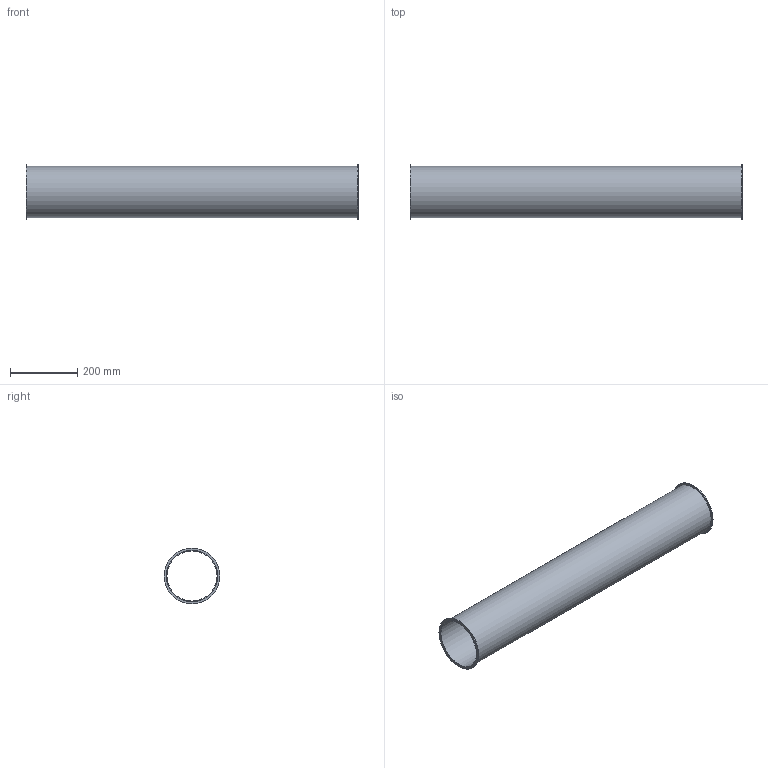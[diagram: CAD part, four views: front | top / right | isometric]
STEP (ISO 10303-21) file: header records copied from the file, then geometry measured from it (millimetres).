
FILE_DESCRIPTION((''),'2;1');
FILE_NAME('U:\Wolfgang\Marcel-3D\fertig\Kapitel 1\1521002.stp','2010-05-31T11:08:07',('TK2'),(''),'Autodesk Inventor 2010','Autodesk Inventor 2010','');
FILE_SCHEMA(('AUTOMOTIVE_DESIGN { 1 0 10303 214 1 1 1 1 }'));
Length unit declared in the file: millimetre
Products named in the file (1): 1521002
Bounding box: 986 x 165 x 165 mm (x, y, z)
Volume: 947466.6 mm3; surface area: 949515 mm2
Topology: 1 solids, 1 shells, 8 faces, 12 edges, 8 vertices
Faces by surface type: cylinder 4, plane 4
Full cylindrical faces by diameter (mm): 149 x1, 153 x1, 165 x2
Entity records: 194 total; most frequent: DIRECTION 34, CARTESIAN_POINT 25, AXIS2_PLACEMENT_3D 17, ORIENTED_EDGE 16, EDGE_LOOP 16, VERTEX_POINT 8, CIRCLE 8, EDGE_CURVE 8
